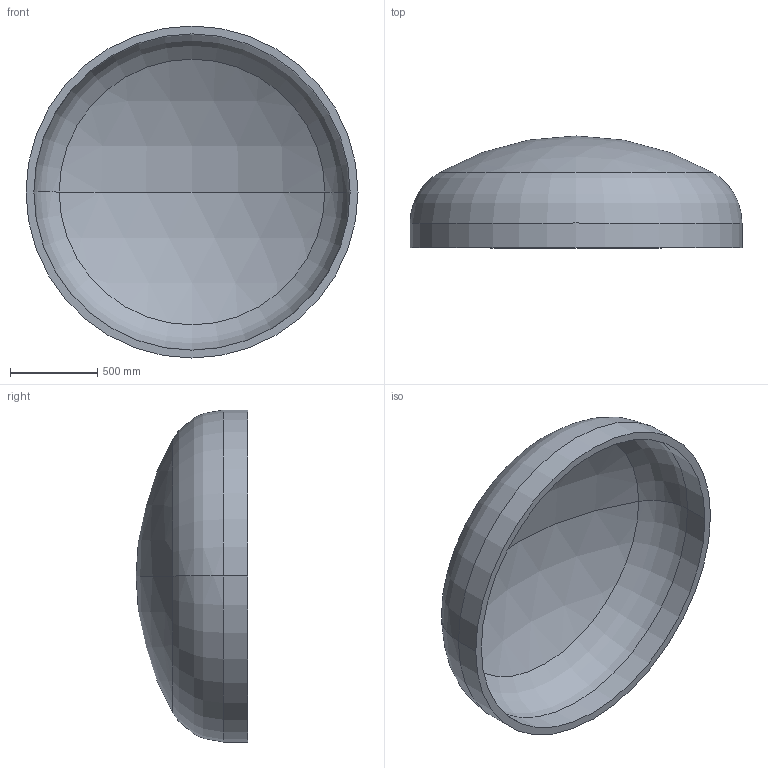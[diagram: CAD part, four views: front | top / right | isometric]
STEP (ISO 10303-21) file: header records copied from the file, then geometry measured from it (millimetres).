
FILE_DESCRIPTION (( 'STEP AP203' ), '1' );
FILE_NAME ('DIN 28013 Korbbogenform_-_Boden DIN 28013 - 1900 x 140 - I - s=45.step', '2016-07-01T13:10:45', ( '' ), ( '' ), 'SwSTEP 2.0', 'SolidWorks 2013', '' );
FILE_SCHEMA (( 'CONFIG_CONTROL_DESIGN' ));
Length unit declared in the file: millimetre
Products named in the file (1): DIN 28013 Korbbogenform_-_Boden DIN 28013 - 1900 x 140 - I - s=45
Bounding box: 1900 x 639.79 x 1900 mm (x, y, z)
Volume: 207707816.9 mm3; surface area: 9497941.3 mm2
Topology: 1 solids, 1 shells, 13 faces, 24 edges, 14 vertices
Faces by surface type: torus 4, cylinder 4, sphere 4, plane 1
Entity records: 407 total; most frequent: DIRECTION 72, CARTESIAN_POINT 52, ORIENTED_EDGE 48, AXIS2_PLACEMENT_3D 34, EDGE_CURVE 24, CIRCLE 20, VERTEX_POINT 14, EDGE_LOOP 14
